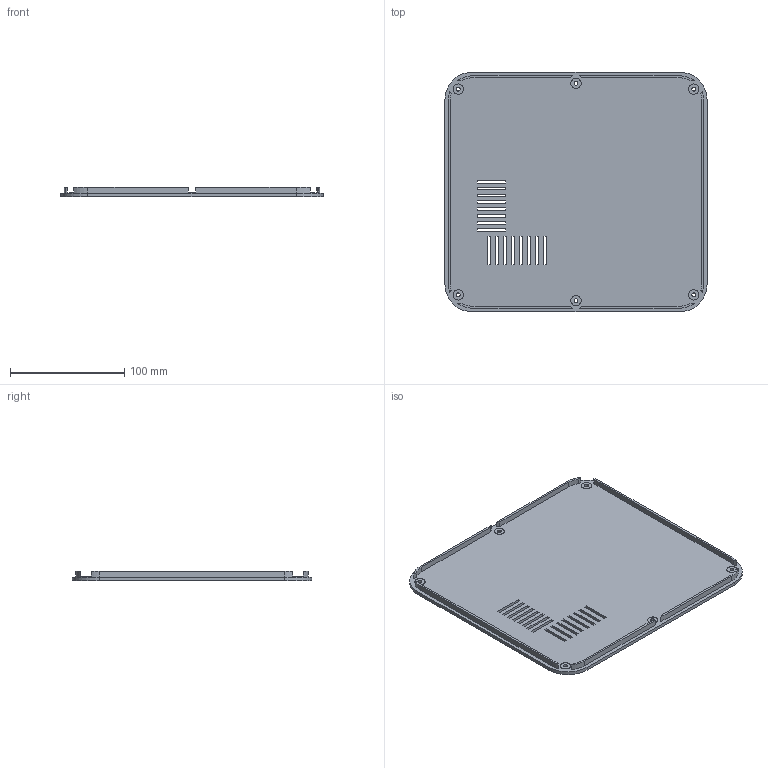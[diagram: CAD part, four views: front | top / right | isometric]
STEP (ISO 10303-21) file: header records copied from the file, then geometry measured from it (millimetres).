
FILE_DESCRIPTION(/* description */ ('Removable underside cover with locating lip; six M3 screws. Print flat, outside face down.'),/* implementation_level */ '2;1');
FILE_NAME(/* name */ '02 Bottom cover.step',/* time_stamp */ '2026-10-02T18:55:14+01:00',/* author */ (''),/* organization */ (''),/* preprocessor_version */ 'ST-DEVELOPER v20.2',/* originating_system */ 'Autodesk Translation Framework v15.15.0.0',/* authorisation */ '');
FILE_SCHEMA (('AUTOMOTIVE_DESIGN { 1 0 10303 214 3 1 1 }'));
Length unit declared in the file: millimetre
Products named in the file (1): 2026-10-02-18-55-13-726
Bounding box: 229.4 x 209.4 x 8 mm (x, y, z)
Volume: 145643.5 mm3; surface area: 106302.5 mm2
Topology: 1 solids, 1 shells, 158 faces, 402 edges, 268 vertices
Faces by surface type: plane 104, cylinder 54
Full cylindrical faces by diameter (mm): 3.4 x6, 6.6 x6, 9 x6, 14 x4
Entity records: 4902 total; most frequent: CARTESIAN_POINT 829, DIRECTION 828, ORIENTED_EDGE 804, EDGE_CURVE 402, LINE 294, VECTOR 294, VERTEX_POINT 268, AXIS2_PLACEMENT_3D 267
